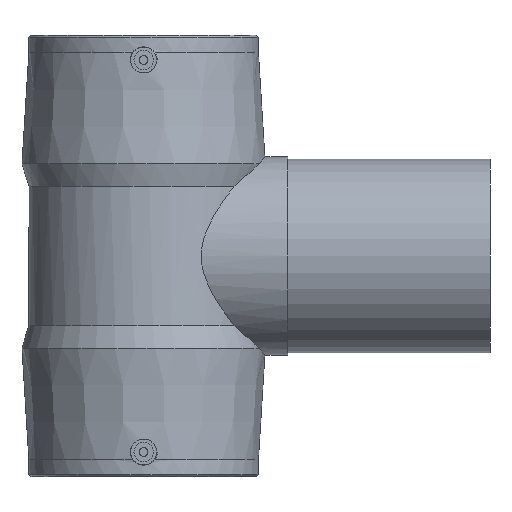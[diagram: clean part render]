
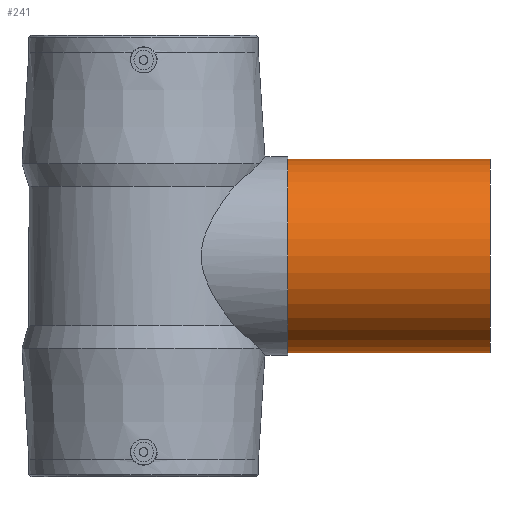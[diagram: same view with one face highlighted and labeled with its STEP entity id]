
A CAD part, front view. The second image highlights one B-rep face of the part: STEP entity #241.
In plain terms, the highlighted cylindrical face has radius 45 mm (diameter 90 mm), a partial arc.
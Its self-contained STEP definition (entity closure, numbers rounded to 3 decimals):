
#100 = VECTOR ( 'NONE', #1532, 1000. ) ;
#101 = VECTOR ( 'NONE', #1516, 1000. ) ;
#113 = AXIS2_PLACEMENT_3D ( 'NONE', #1376, #1378, #1379 ) ;
#147 = EDGE_LOOP ( 'NONE', ( #1636, #1637, #1638, #1640 ) ) ;
#241 = ADVANCED_FACE ( 'NONE', ( #1375 ), #1377, .T. ) ;
#250 = EDGE_CURVE ( 'NONE', #695, #645, #1507, .T. ) ;
#252 = EDGE_CURVE ( 'NONE', #684, #643, #1522, .T. ) ;
#489 = CARTESIAN_POINT ( 'NONE',  ( 160.8, 0., 0. ) ) ;
#490 = DIRECTION ( 'NONE',  ( -1., 0., 0. ) ) ;
#491 = DIRECTION ( 'NONE',  ( 0., 0., 1. ) ) ;
#580 = CARTESIAN_POINT ( 'NONE',  ( 66.8, 0., 0. ) ) ;
#581 = DIRECTION ( 'NONE',  ( -1., 0., 0. ) ) ;
#582 = DIRECTION ( 'NONE',  ( 0., 0., 1. ) ) ;
#643 = VERTEX_POINT ( 'NONE', #1845 ) ;
#645 = VERTEX_POINT ( 'NONE', #1849 ) ;
#684 = VERTEX_POINT ( 'NONE', #1920 ) ;
#695 = VERTEX_POINT ( 'NONE', #1940 ) ;
#1375 = FACE_OUTER_BOUND ( 'NONE', #147, .T. ) ;
#1376 = CARTESIAN_POINT ( 'NONE',  ( 113.8, 0., 0. ) ) ;
#1377 = CYLINDRICAL_SURFACE ( 'NONE', #113, 45. ) ;
#1378 = DIRECTION ( 'NONE',  ( -1., 0., 0. ) ) ;
#1379 = DIRECTION ( 'NONE',  ( 0., 0., 1. ) ) ;
#1499 = CARTESIAN_POINT ( 'NONE',  ( 113.8, 0., -45. ) ) ;
#1503 = CARTESIAN_POINT ( 'NONE',  ( 113.8, 0., 45. ) ) ;
#1507 = LINE ( 'NONE', #1499, #101 ) ;
#1516 = DIRECTION ( 'NONE',  ( -1., 0., 0. ) ) ;
#1522 = LINE ( 'NONE', #1503, #100 ) ;
#1532 = DIRECTION ( 'NONE',  ( -1., 0., 0. ) ) ;
#1636 = ORIENTED_EDGE ( 'NONE', *, *, #250, .F. ) ;
#1637 = ORIENTED_EDGE ( 'NONE', *, *, #1995, .T. ) ;
#1638 = ORIENTED_EDGE ( 'NONE', *, *, #252, .T. ) ;
#1640 = ORIENTED_EDGE ( 'NONE', *, *, #2005, .F. ) ;
#1845 = CARTESIAN_POINT ( 'NONE',  ( 66.8, 0., 45. ) ) ;
#1849 = CARTESIAN_POINT ( 'NONE',  ( 66.8, 0., -45. ) ) ;
#1920 = CARTESIAN_POINT ( 'NONE',  ( 160.8, 0., 45. ) ) ;
#1940 = CARTESIAN_POINT ( 'NONE',  ( 160.8, 0., -45. ) ) ;
#1995 = EDGE_CURVE ( 'NONE', #695, #684, #2081, .T. ) ;
#2005 = EDGE_CURVE ( 'NONE', #645, #643, #2093, .T. ) ;
#2081 = CIRCLE ( 'NONE', #2084, 45. ) ;
#2084 = AXIS2_PLACEMENT_3D ( 'NONE', #489, #490, #491 ) ;
#2093 = CIRCLE ( 'NONE', #2096, 45. ) ;
#2096 = AXIS2_PLACEMENT_3D ( 'NONE', #580, #581, #582 ) ;
